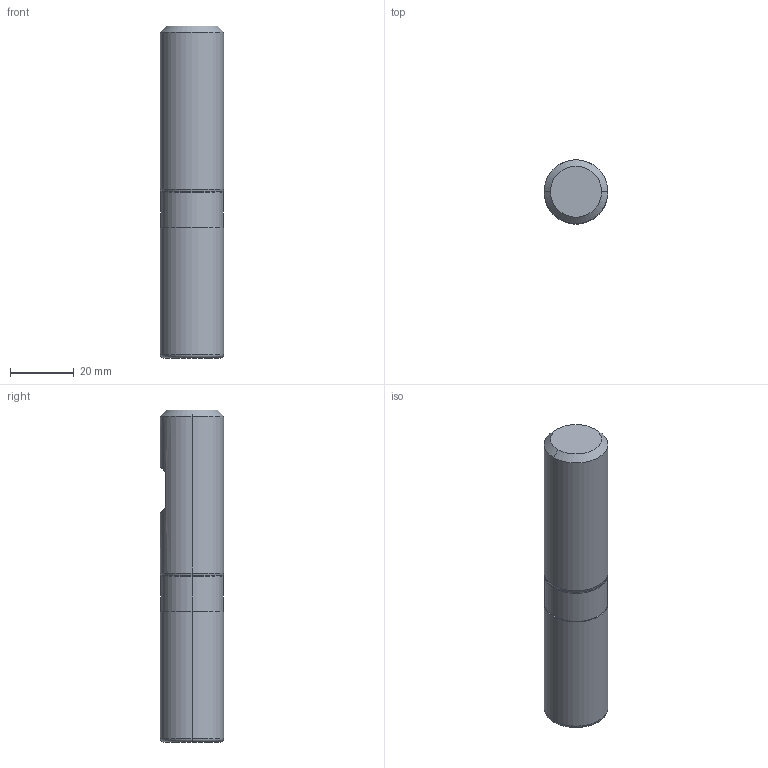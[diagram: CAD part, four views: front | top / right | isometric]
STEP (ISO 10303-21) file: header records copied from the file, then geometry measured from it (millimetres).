
FILE_DESCRIPTION (( 'STEP AP214' ), '1' );
FILE_NAME ('2.416.200.10_3D-model.step', '2023-08-21T06:15:16', ( '' ), ( '' ), 'SwSTEP 2.0', 'SolidWorks 2020', '' );
FILE_SCHEMA (( 'AUTOMOTIVE_DESIGN' ));
Length unit declared in the file: millimetre
Products named in the file (3): CUT-3D^Baugr43; 2.416.200.10_3D-model; NOCUT-3D^Baugr43
Assembly tree (2 placements, depth 2):
  2.416.200.10_3D-model
    CUT-3D^Baugr43
    NOCUT-3D^Baugr43
Bounding box: 20 x 20 x 104 mm (x, y, z)
Volume: 32190 mm3; surface area: 7655.7 mm2
Topology: 2 solids, 2 shells, 21 faces, 38 edges, 22 vertices
Faces by surface type: plane 7, cylinder 6, torus 4, cone 4
Entity records: 636 total; most frequent: DIRECTION 116, CARTESIAN_POINT 95, ORIENTED_EDGE 76, AXIS2_PLACEMENT_3D 51, EDGE_CURVE 38, VERTEX_POINT 22, CIRCLE 22, EDGE_LOOP 22
